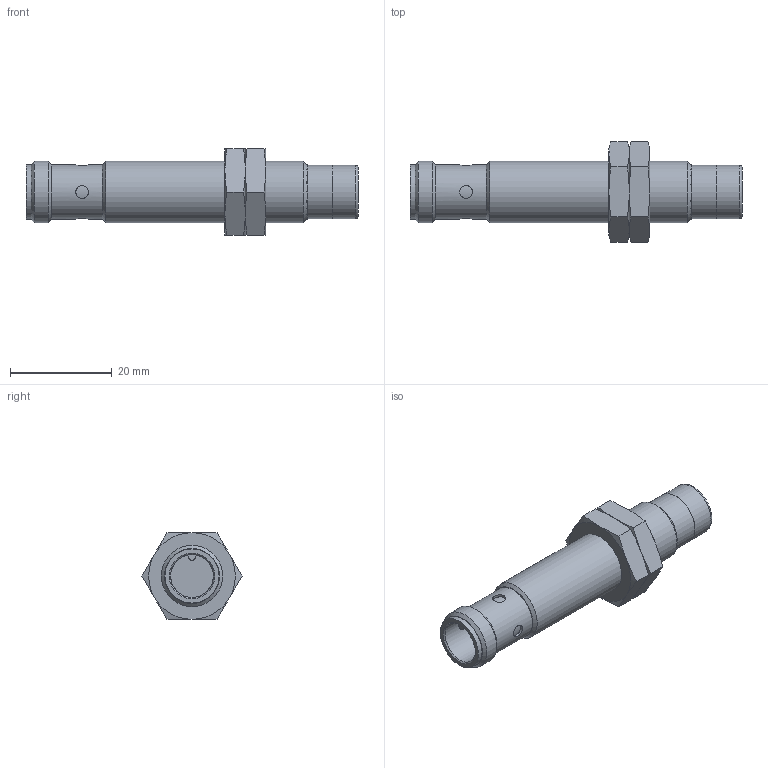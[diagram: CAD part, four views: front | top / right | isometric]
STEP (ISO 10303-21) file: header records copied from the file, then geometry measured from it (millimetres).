
FILE_DESCRIPTION( ( 'STEP AP203' ), ' ' );
FILE_NAME( 'p:/temp/worker_339/6048_5568/app_52_02018021511252159912170192d056f_000000_00_00_000000/format_1/IFC246.stp', '2018-02-15T10:25:22', ( '' ), ( '' ), ' ', 'PARTsolutions', ' ' );
FILE_SCHEMA( ( 'CONFIG_CONTROL_DESIGN' ) );
Length unit declared in the file: millimetre
Products named in the file (3): IFC246; _IFC246_part1; _IFC246_PART2
Assembly tree (3 placements, depth 2):
  IFC246
    _IFC246_part1
    _IFC246_PART2  x2
Bounding box: 65.1 x 19.63 x 17 mm (x, y, z)
Volume: 7517.8 mm3; surface area: 4135.5 mm2
Topology: 3 solids, 3 shells, 80 faces, 160 edges, 95 vertices
Faces by surface type: cone 33, plane 27, cylinder 19, torus 1
Full cylindrical faces by diameter (mm): 2.5 x4, 8.4 x1, 10.45 x1, 10.5 x1, 10.6 x3, 10.917 x2, 12 x2
Entity records: 1742 total; most frequent: CARTESIAN_POINT 597, DIRECTION 216, ORIENTED_EDGE 172, AXIS2_PLACEMENT_3D 101, EDGE_LOOP 90, EDGE_CURVE 86, FACE_OUTER_BOUND 71, VERTEX_POINT 64
